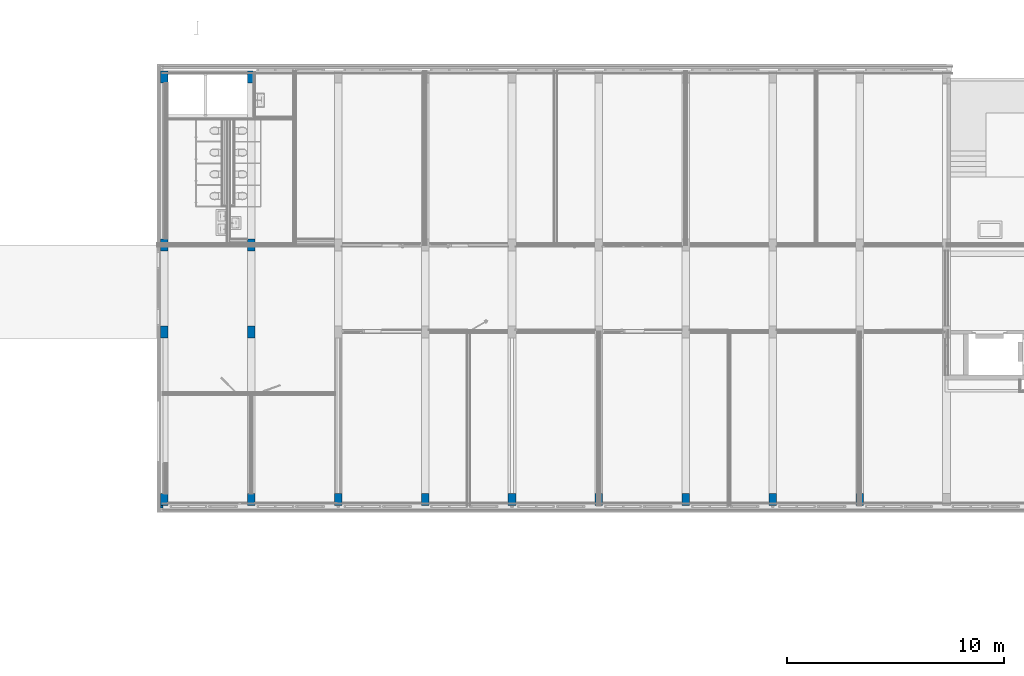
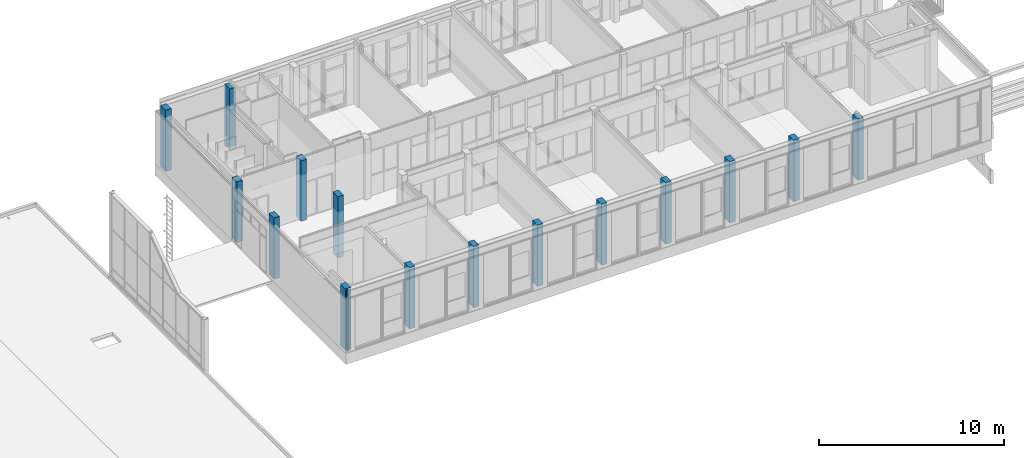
# One storey, part 2 of 54: 16 columns.
"""IFC2X3 building model written with IfcOpenShell, lengths in millimetres."""

from ifc_helpers import new_model, entity, si_unit, converted_unit, derived_unit, money_unit, direction, frame, origin_with_axes, place, context, subcontext, project, spatial, faceted_brep, material, type_object, element, save


model = new_model("IFC2X3")

# Units and contexts
model_context = context("Model", 3, precision=0.01, world=origin_with_axes(), true_north=direction((0.0, 1.0)))
body_context = subcontext(model_context, "Body", "Model", "MODEL_VIEW")
ifc_project = project(units=[si_unit("LENGTHUNIT", "METRE", prefix="MILLI"), si_unit("AREAUNIT", "SQUARE_METRE"), si_unit("VOLUMEUNIT", "CUBIC_METRE"), converted_unit("PLANEANGLEUNIT", "DEGREE", entity("IfcPlaneAngleMeasure", 0.0174532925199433), si_unit("PLANEANGLEUNIT", "RADIAN"), dimensions=[0, 0, 0, 0, 0, 0, 0]), money_unit("EUR"), converted_unit("TIMEUNIT", "Year", entity("IfcTimeMeasure", 31557600.0), si_unit("TIMEUNIT", "SECOND"), dimensions=[0, 0, 1, 0, 0, 0, 0]), si_unit("MASSUNIT", "GRAM", prefix="KILO"), si_unit("THERMODYNAMICTEMPERATUREUNIT", "DEGREE_CELSIUS"), si_unit("LUMINOUSINTENSITYUNIT", "LUMEN"), si_unit("ENERGYUNIT", "JOULE", prefix="MEGA"), derived_unit("THERMALCONDUCTANCEUNIT", [(si_unit("POWERUNIT", "WATT"), 1), (si_unit("LENGTHUNIT", "METRE"), -1), (si_unit("THERMODYNAMICTEMPERATUREUNIT", "KELVIN"), -1)]), derived_unit("SPECIFICHEATCAPACITYUNIT", [(si_unit("ENERGYUNIT", "JOULE"), 1), (si_unit("MASSUNIT", "GRAM", prefix="KILO"), -1), (si_unit("THERMODYNAMICTEMPERATUREUNIT", "KELVIN"), -1)]), derived_unit("MASSDENSITYUNIT", [(si_unit("MASSUNIT", "GRAM", prefix="KILO"), 1), (si_unit("VOLUMEUNIT", "CUBIC_METRE"), -1)])], contexts=[model_context])

# Site, building, storey
site_placement = place(None, origin_with_axes())
site = spatial("IfcSite", under=ifc_project, at=site_placement, Name="<site naam>", CompositionType="ELEMENT")
building_placement = place(site_placement, origin_with_axes())
building = spatial("IfcBuilding", under=site, at=building_placement, Name="<Naam gebouw>", CompositionType="ELEMENT")
storey_placement = place(building_placement, frame((0.0, 0.0, 8500.0), z_axis=(0.0, 0.0, 1.0), x_axis=(1.0, 0.0, 0.0)))
storey = spatial("IfcBuildingStorey", under=building, at=storey_placement, Name="02 2e verdieping", CompositionType="ELEMENT", Elevation=8500.0)

# Columns
ifc_material = material(Name="beton_gewapend C")
column_type_1 = type_object("IfcColumnType", Name="beton_gewapend C 350 x 550", PredefinedType="COLUMN")
for number, where, z_axis, x_axis, name in (
    (1, (44000.00000000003, 275.0000000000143, 0.0), (0.0, 0.0, 1.0), (1.0, 0.0, 0.0), "28_Kolom_beton_gewapend"),
    (2, (36000.00000000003, 275.0000000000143, 0.0), (0.0, 0.0, 1.0), (1.0, 0.0, 0.0), "28_Kolom_beton_gewapend"),
    (3, (40000.00000000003, 275.0000000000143, 0.0), (0.0, 0.0, 1.0), (1.0, 0.0, 0.0), "28_Kolom_beton_gewapend"),
):
    element("IfcColumn", number, at=place(storey_placement, frame(where, z_axis=z_axis, x_axis=x_axis)), inside=storey, type_object=column_type_1, material=ifc_material, Name=name, ObjectType="COLUMN", context=body_context, shape_type="Brep", body=[
        faceted_brep([(-174.9999999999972, 275.0000000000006, 0.0), (-174.9999999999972, 275.0000000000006, 4050.000014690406), (174.9999999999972, 275.0000000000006, 4050.000014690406), (174.9999999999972, 275.0000000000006, 0.0), (-174.9999999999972, -275.0000000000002, 0.0), (-174.9999999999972, -275.0000000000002, 4050.000014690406), (174.9999999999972, -275.0000000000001, 4050.000014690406), (174.9999999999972, -275.0000000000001, 0.0)], [[[0, 1, 2, 3]], [[4, 5, 1, 0]], [[5, 6, 2, 1]], [[3, 2, 6, 7]], [[3, 7, 4, 0]], [[7, 6, 5, 4]]]),
    ])
column_1_placement = place(storey_placement, frame((12000.00000000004, 19724.99999999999, 0.0), z_axis=(0.0, 0.0, 1.0), x_axis=(1.0, 0.0, 0.0)))
element("IfcColumn", 4, at=column_1_placement, inside=storey, type_object=column_type_1, material=ifc_material, Name="28_Kolom_beton_gewapend", ObjectType="COLUMN", context=body_context, shape_type="Brep", body=[
    faceted_brep([(175.0000000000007, 274.9999999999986, 0.0), (-175.0000000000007, 274.9999999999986, 0.0), (-175.0000000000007, 274.9999999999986, 4050.000014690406), (175.0000000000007, 274.9999999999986, 4050.000014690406), (-175.0000000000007, -274.9999999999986, 0.0), (175.0000000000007, -274.9999999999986, 0.0), (-175.0000000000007, -274.9999999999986, 4050.000014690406), (175.0000000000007, -274.9999999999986, 4050.000014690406)], [[[0, 1, 2, 3]], [[4, 1, 0, 5]], [[1, 4, 6, 2]], [[2, 6, 7, 3]], [[5, 0, 3, 7]], [[4, 5, 7, 6]]]),
])
column_2_placement = place(storey_placement, frame((12000.00000000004, 12000.00000000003, 0.0), z_axis=(0.0, 0.0, 1.0), x_axis=(1.0, 0.0, 0.0)))
element("IfcColumn", 5, at=column_2_placement, inside=storey, type_object=column_type_1, material=ifc_material, Name="28_Kolom_beton_gewapend", ObjectType="COLUMN", context=body_context, shape_type="Brep", body=[
    faceted_brep([(175.0000000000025, -275.0000000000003, 0.0), (175.0000000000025, -275.0000000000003, 3990.0), (-174.9999999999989, -275.0000000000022, 3990.0), (-174.9999999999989, -275.0000000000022, 0.0), (175.0000000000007, 275.0000000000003, 0.0), (175.0000000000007, 275.0000000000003, 3990.0), (-175.0000000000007, 274.9999999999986, 3990.0), (-175.0000000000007, 274.9999999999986, 0.0)], [[[0, 1, 2, 3]], [[4, 5, 1, 0]], [[1, 5, 6, 2]], [[3, 2, 6, 7]], [[7, 4, 0, 3]], [[7, 6, 5, 4]]]),
])
column_3_placement = place(storey_placement, frame((12000.00000000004, 8000.000000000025, 0.0), z_axis=(0.0, 0.0, 1.0), x_axis=(1.0, 0.0, 0.0)))
element("IfcColumn", 6, at=column_3_placement, inside=storey, type_object=column_type_1, material=ifc_material, Name="28_Kolom_beton_gewapend", ObjectType="COLUMN", context=body_context, shape_type="Brep", body=[
    faceted_brep([(175.0000000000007, 275.0000000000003, 0.0), (-175.0000000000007, 274.9999999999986, 0.0), (-175.0000000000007, 274.9999999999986, 4050.000014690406), (175.0000000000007, 275.0000000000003, 4050.000014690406), (-175.0000000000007, -275.0000000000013, 0.0), (175.0000000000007, -275.0000000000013, 0.0), (-175.0000000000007, -275.0000000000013, 4050.000014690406), (175.0000000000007, -275.0000000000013, 4050.000014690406)], [[[0, 1, 2, 3]], [[4, 1, 0, 5]], [[1, 4, 6, 2]], [[2, 6, 7, 3]], [[5, 0, 3, 7]], [[4, 5, 7, 6]]]),
])
column_4_placement = place(storey_placement, frame((12000.00000000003, 275.0000000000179, 0.0), z_axis=(0.0, 0.0, 1.0), x_axis=(1.0, 0.0, 0.0)))
element("IfcColumn", 7, at=column_4_placement, inside=storey, type_object=column_type_1, material=ifc_material, Name="28_Kolom_beton_gewapend", ObjectType="COLUMN", context=body_context, shape_type="Brep", body=[
    faceted_brep([(175.0000000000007, 275.0000000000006, 0.0), (-175.0000000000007, 275.0000000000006, 0.0), (-175.0000000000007, 275.0000000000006, 4050.000014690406), (175.0000000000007, 275.0000000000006, 4050.000014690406), (-175.0000000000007, -275.0000000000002, 0.0), (175.0000000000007, -275.0000000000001, 0.0), (-175.0000000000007, -275.0000000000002, 4050.000014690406), (175.0000000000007, -275.0000000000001, 4050.000014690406)], [[[0, 1, 2, 3]], [[4, 1, 0, 5]], [[1, 4, 6, 2]], [[2, 6, 7, 3]], [[5, 0, 3, 7]], [[4, 5, 7, 6]]]),
])
column_5_placement = place(storey_placement, frame((16000.00000000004, 19724.99999999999, 0.0), z_axis=(0.0, 0.0, 1.0), x_axis=(1.0, 0.0, 0.0)))
element("IfcColumn", 8, at=column_5_placement, inside=storey, type_object=column_type_1, material=ifc_material, Name="28_Kolom_beton_gewapend", ObjectType="COLUMN", context=body_context, shape_type="Brep", body=[
    faceted_brep([(-175.0000000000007, 274.9999999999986, 0.0), (-175.0000000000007, 274.9999999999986, 4050.000014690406), (175.0000000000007, 274.9999999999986, 4050.000014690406), (175.0000000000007, 274.9999999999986, 0.0), (-175.0000000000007, -274.9999999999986, 0.0), (-175.0000000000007, -274.9999999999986, 4050.000014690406), (175.0000000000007, -274.9999999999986, 4050.000014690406), (175.0000000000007, -274.9999999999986, 0.0)], [[[0, 1, 2, 3]], [[4, 5, 1, 0]], [[5, 6, 2, 1]], [[3, 2, 6, 7]], [[3, 7, 4, 0]], [[7, 6, 5, 4]]]),
])
column_6_placement = place(storey_placement, frame((16000.00000000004, 12000.00000000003, 0.0), z_axis=(0.0, 0.0, 1.0), x_axis=(1.0, 0.0, 0.0)))
element("IfcColumn", 9, at=column_6_placement, inside=storey, type_object=column_type_1, material=ifc_material, Name="28_Kolom_beton_gewapend", ObjectType="COLUMN", context=body_context, shape_type="Brep", body=[
    faceted_brep([(-174.9999999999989, -275.0000000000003, 3990.0), (-174.9999999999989, -275.0000000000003, 0.0), (175.0000000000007, -275.0000000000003, 0.0), (175.0000000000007, -275.0000000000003, 3990.0), (-175.0000000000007, 275.0000000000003, 3990.0), (-175.0000000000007, 275.0000000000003, 0.0), (175.0000000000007, 275.0000000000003, 0.0), (175.0000000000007, 275.0000000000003, 3990.0)], [[[0, 1, 2, 3]], [[4, 5, 1, 0]], [[2, 1, 5, 6]], [[3, 2, 6, 7]], [[4, 0, 3, 7]], [[7, 6, 5, 4]]]),
])
column_7_placement = place(storey_placement, frame((16000.00000000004, 8000.000000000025, 0.0), z_axis=(0.0, 0.0, 1.0), x_axis=(1.0, 0.0, 0.0)))
element("IfcColumn", 10, at=column_7_placement, inside=storey, type_object=column_type_1, material=ifc_material, Name="28_Kolom_beton_gewapend", ObjectType="COLUMN", context=body_context, shape_type="Brep", body=[
    faceted_brep([(-174.9999999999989, 275.0000000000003, 0.0), (-174.9999999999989, 275.0000000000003, 4050.000014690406), (175.0000000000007, 275.0000000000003, 4050.000014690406), (175.0000000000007, 275.0000000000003, 0.0), (-174.9999999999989, -275.0000000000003, 0.0), (-174.9999999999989, -275.0000000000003, 4050.000014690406), (175.0000000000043, -275.0000000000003, 4050.000014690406), (175.0000000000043, -275.0000000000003, 0.0)], [[[0, 1, 2, 3]], [[4, 5, 1, 0]], [[5, 6, 2, 1]], [[3, 2, 6, 7]], [[3, 7, 4, 0]], [[7, 6, 5, 4]]]),
])
column_8_placement = place(storey_placement, frame((16000.00000000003, 275.0000000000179, 0.0), z_axis=(0.0, 0.0, 1.0), x_axis=(1.0, 0.0, 0.0)))
element("IfcColumn", 11, at=column_8_placement, inside=storey, type_object=column_type_1, material=ifc_material, Name="28_Kolom_beton_gewapend", ObjectType="COLUMN", context=body_context, shape_type="Brep", body=[
    faceted_brep([(-175.0000000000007, 275.0000000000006, 0.0), (-175.0000000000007, 275.0000000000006, 4050.000014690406), (175.0000000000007, 275.0000000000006, 4050.000014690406), (175.0000000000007, 275.0000000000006, 0.0), (-175.0000000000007, -275.0000000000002, 0.0), (-175.0000000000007, -275.0000000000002, 4050.000014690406), (175.0000000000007, -275.0000000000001, 4050.000014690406), (175.0000000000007, -275.0000000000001, 0.0)], [[[0, 1, 2, 3]], [[4, 5, 1, 0]], [[5, 6, 2, 1]], [[3, 2, 6, 7]], [[3, 7, 4, 0]], [[7, 6, 5, 4]]]),
])
column_9_placement = place(storey_placement, frame((20000.00000000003, 275.0000000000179, 0.0), z_axis=(0.0, 0.0, 1.0), x_axis=(1.0, 0.0, 0.0)))
element("IfcColumn", 12, at=column_9_placement, inside=storey, type_object=column_type_1, material=ifc_material, Name="28_Kolom_beton_gewapend", ObjectType="COLUMN", context=body_context, shape_type="Brep", body=[
    faceted_brep([(-175.0000000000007, 275.0000000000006, 0.0), (-175.0000000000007, 275.0000000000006, 4050.000014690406), (175.0000000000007, 275.0000000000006, 4050.000014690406), (175.0000000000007, 275.0000000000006, 0.0), (-175.0000000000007, -275.0000000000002, 0.0), (-175.0000000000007, -275.0000000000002, 4050.000014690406), (175.0000000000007, -275.0000000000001, 4050.000014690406), (175.0000000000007, -275.0000000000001, 0.0)], [[[0, 1, 2, 3]], [[4, 5, 1, 0]], [[5, 6, 2, 1]], [[3, 2, 6, 7]], [[0, 3, 7, 4]], [[7, 6, 5, 4]]]),
])
for number, where, z_axis, x_axis, name in (
    (13, (24000.00000000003, 275.0000000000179, 0.0), (0.0, 0.0, 1.0), (1.0, 0.0, 0.0), "28_Kolom_beton_gewapend"),
    (14, (28000.00000000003, 275.0000000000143, 0.0), (0.0, 0.0, 1.0), (1.0, 0.0, 0.0), "28_Kolom_beton_gewapend"),
):
    element("IfcColumn", number, at=place(storey_placement, frame(where, z_axis=z_axis, x_axis=x_axis)), inside=storey, type_object=column_type_1, material=ifc_material, Name=name, ObjectType="COLUMN", context=body_context, shape_type="Brep", body=[
        faceted_brep([(-175.0000000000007, 275.0000000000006, 0.0), (-175.0000000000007, 275.0000000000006, 4050.000014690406), (175.0000000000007, 275.0000000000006, 4050.000014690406), (175.0000000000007, 275.0000000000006, 0.0), (-175.0000000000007, -275.0000000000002, 0.0), (-175.0000000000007, -275.0000000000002, 4050.000014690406), (175.0000000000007, -275.0000000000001, 4050.000014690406), (175.0000000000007, -275.0000000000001, 0.0)], [[[0, 1, 2, 3]], [[4, 5, 1, 0]], [[5, 6, 2, 1]], [[3, 2, 6, 7]], [[3, 7, 4, 0]], [[7, 6, 5, 4]]]),
    ])
column_10_placement = place(storey_placement, frame((32000.00000000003, 275.0000000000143, 0.0), z_axis=(0.0, 0.0, 1.0), x_axis=(1.0, 0.0, 0.0)))
element("IfcColumn", 15, at=column_10_placement, inside=storey, type_object=column_type_1, material=ifc_material, Name="28_Kolom_beton_gewapend", ObjectType="COLUMN", context=body_context, shape_type="Brep", body=[
    faceted_brep([(-175.0000000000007, 275.0000000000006, 0.0), (-175.0000000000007, 275.0000000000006, 4050.000014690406), (174.9999999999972, 275.0000000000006, 4050.000014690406), (174.9999999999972, 275.0000000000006, 0.0), (-175.0000000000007, -275.0000000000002, 0.0), (-175.0000000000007, -275.0000000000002, 4050.000014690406), (174.9999999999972, -275.0000000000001, 4050.000014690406), (174.9999999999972, -275.0000000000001, 0.0)], [[[0, 1, 2, 3]], [[4, 5, 1, 0]], [[5, 6, 2, 1]], [[3, 2, 6, 7]], [[3, 7, 4, 0]], [[7, 6, 5, 4]]]),
])
column_type_2 = type_object("IfcColumnType", Name="beton_gewapend C 110 x 108", PredefinedType="COLUMN")
column_11_placement = place(storey_placement, frame((11879.99997704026, -53.83736682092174, 0.0), z_axis=(0.0, 0.0, 1.0), x_axis=(1.0, 0.0, 0.0)))
element("IfcColumn", 16, at=column_11_placement, inside=storey, type_object=column_type_2, material=ifc_material, Name="28_Kolom_beton_gewapend", ObjectType="COLUMN", context=body_context, shape_type="Brep", body=[
    faceted_brep([(54.99997704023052, 53.83736682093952, 0.0), (-54.99997704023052, 53.83736682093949, 0.0), (-54.99997704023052, 53.83736682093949, 4050.000014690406), (54.99997704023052, 53.83736682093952, 4050.000014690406), (-54.99997704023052, -53.83736682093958, 0.0), (54.99997704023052, -53.83736682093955, 0.0), (-54.99997704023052, -53.83736682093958, 4050.000014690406), (54.99997704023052, -53.83736682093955, 4050.000014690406)], [[[0, 1, 2, 3]], [[4, 1, 0, 5]], [[1, 4, 6, 2]], [[2, 6, 7, 3]], [[5, 0, 3, 7]], [[4, 5, 7, 6]]]),
])

save(model, "model.ifc")
